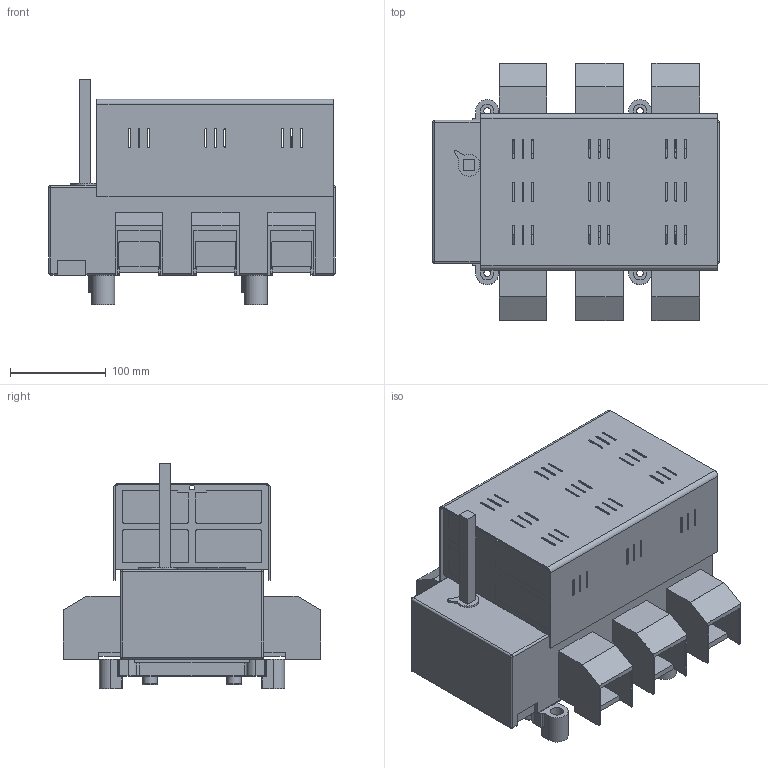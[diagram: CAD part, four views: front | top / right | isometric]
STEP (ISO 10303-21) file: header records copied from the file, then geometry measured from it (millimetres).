
FILE_DESCRIPTION(/* description */ (''),/* implementation_level */ '2;1');
FILE_NAME(/* name */ 'RAB 3 P3 z oslona zaciskow.stp',/* time_stamp */ '2021-08-19T14:39:55+02:00',/* author */ (''),/* organization */ (''),/* preprocessor_version */ 'ST-DEVELOPER v18.1',/* originating_system */ 'SIEMENS PLM Software NX 1965',/* authorisation */ '');
FILE_SCHEMA (('AUTOMOTIVE_DESIGN { 1 0 10303 214 3 1 1 1 }'));
Length unit declared in the file: millimetre
Products named in the file (1): RAB 3 P3 z oslona zaciskow_stp
Bounding box: 300 x 270 x 236 mm (x, y, z)
Volume: 4573093.6 mm3; surface area: 761146.1 mm2
Topology: 1 solids, 13 shells, 1696 faces, 4625 edges, 2973 vertices
Faces by surface type: plane 1036, cylinder 550, bspline 50, torus 44, cone 8, sphere 8
Full cylindrical faces by diameter (mm): 3 x4, 4.8 x4, 5.6 x4, 6.5 x26, 7 x4, 10.5 x26, 13 x6, 13.5 x4, 14 x4, 15 x4
Entity records: 55315 total; most frequent: CARTESIAN_POINT 12197, ORIENTED_EDGE 8952, DIRECTION 8854, EDGE_CURVE 4476, LINE 3152, VECTOR 3152, VERTEX_POINT 2946, AXIS2_PLACEMENT_3D 2851
